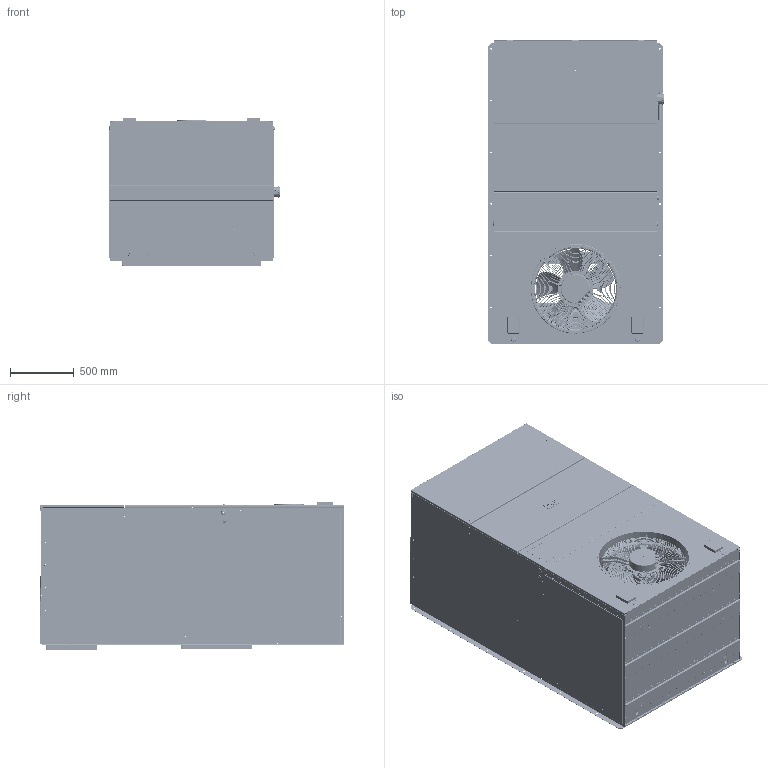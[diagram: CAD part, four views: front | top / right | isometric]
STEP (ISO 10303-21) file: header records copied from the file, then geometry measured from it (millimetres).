
FILE_DESCRIPTION (( 'STEP AP214' ), '1' );
FILE_NAME ('STEP_2800.STEP', '2022-12-02T15:08:46', ( '' ), ( '' ), 'SwSTEP 2.0', 'SolidWorks 2022', '' );
FILE_SCHEMA (( 'AUTOMOTIVE_DESIGN' ));
Length unit declared in the file: inch
Products named in the file (1): STEP_2800
Bounding box: 1385.03 x 2395.48 x 1163.76 mm (x, y, z)
Surface area: 35033949.2 mm2 (no closed solid volume)
Topology: 0 solids, 596 shells, 9462 faces, 32766 edges, 23497 vertices
Faces by surface type: plane 4197, cylinder 3149, bspline 1288, cone 651, torus 171, sphere 6
Entity records: 597055 total; most frequent: CARTESIAN_POINT 200600, ORIENTED_EDGE 57252, DIRECTION 50588, EDGE_CURVE 32550, VERTEX_POINT 23497, VECTOR 18248, LINE 18248, AXIS2_PLACEMENT_3D 16170
